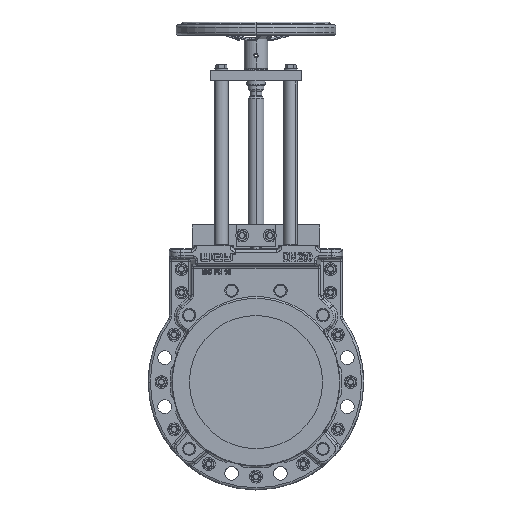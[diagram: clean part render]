
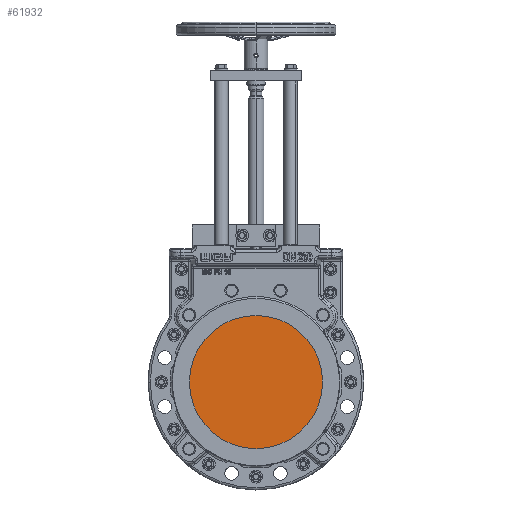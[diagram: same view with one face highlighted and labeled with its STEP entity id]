
A CAD part, top view. The second image highlights one B-rep face of the part: STEP entity #61932.
In plain terms, the highlighted planar face has unit normal (0, 0, 1).
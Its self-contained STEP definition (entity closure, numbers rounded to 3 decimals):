
#1460 = ORIENTED_EDGE ( 'NONE', *, *, #84139, .T. ) ;
#2608 = VERTEX_POINT ( 'NONE', #48134 ) ;
#6160 = CIRCLE ( 'NONE', #30321, 125. ) ;
#6484 = AXIS2_PLACEMENT_3D ( 'NONE', #38513, #78128, #19161 ) ;
#15550 = CARTESIAN_POINT ( 'NONE',  ( 0., 0., -0.25 ) ) ;
#19161 = DIRECTION ( 'NONE',  ( 1., 0., 0. ) ) ;
#25457 = DIRECTION ( 'NONE',  ( 1., 0., 0. ) ) ;
#28632 = PLANE ( 'NONE',  #6484 ) ;
#30321 = AXIS2_PLACEMENT_3D ( 'NONE', #116552, #57498, #126411 ) ;
#35347 = FACE_OUTER_BOUND ( 'NONE', #36349, .T. ) ;
#36349 = EDGE_LOOP ( 'NONE', ( #1460, #66264 ) ) ;
#38513 = CARTESIAN_POINT ( 'NONE',  ( 0., 0., -0.25 ) ) ;
#48134 = CARTESIAN_POINT ( 'NONE',  ( 125., 0., -0.25 ) ) ;
#48798 = CARTESIAN_POINT ( 'NONE',  ( -125., 0., -0.25 ) ) ;
#57498 = DIRECTION ( 'NONE',  ( 0., 0., 1. ) ) ;
#61932 = ADVANCED_FACE ( 'NONE', ( #35347 ), #28632, .T. ) ;
#66264 = ORIENTED_EDGE ( 'NONE', *, *, #83016, .T. ) ;
#69066 = CIRCLE ( 'NONE', #92451, 125. ) ;
#78128 = DIRECTION ( 'NONE',  ( 0., 0., 1. ) ) ;
#83016 = EDGE_CURVE ( 'NONE', #90359, #2608, #6160, .T. ) ;
#84139 = EDGE_CURVE ( 'NONE', #2608, #90359, #69066, .T. ) ;
#84415 = DIRECTION ( 'NONE',  ( 0., 0., 1. ) ) ;
#90359 = VERTEX_POINT ( 'NONE', #48798 ) ;
#92451 = AXIS2_PLACEMENT_3D ( 'NONE', #15550, #84415, #25457 ) ;
#116552 = CARTESIAN_POINT ( 'NONE',  ( 0., 0., -0.25 ) ) ;
#126411 = DIRECTION ( 'NONE',  ( 1., 0., 0. ) ) ;
